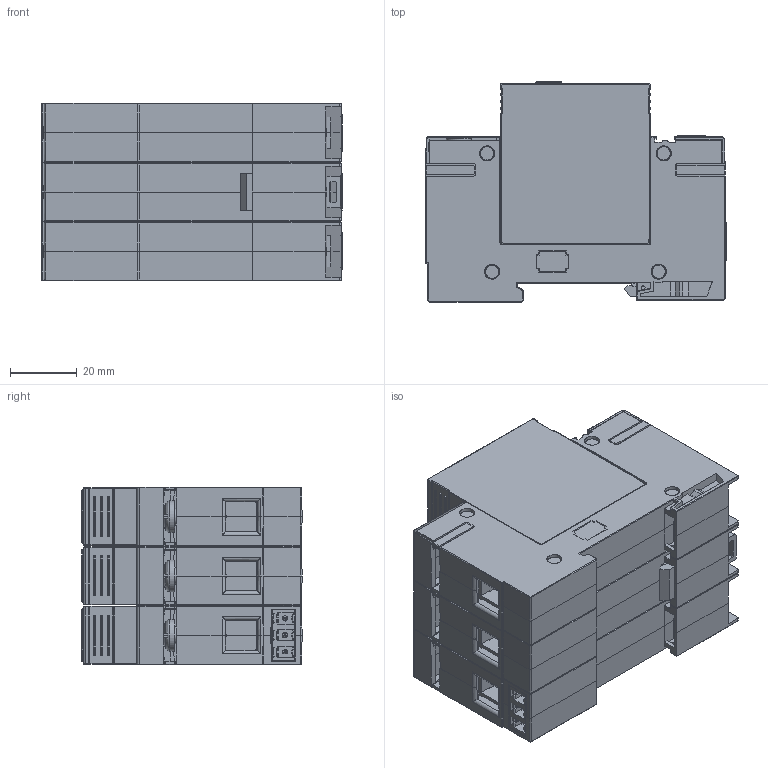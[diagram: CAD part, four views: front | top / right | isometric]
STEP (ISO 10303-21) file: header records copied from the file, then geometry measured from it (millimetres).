
FILE_DESCRIPTION(('STEP AP214'),'2;1');
FILE_NAME('7P_26_9_420_1020.stp','2011-09-26T11:35:29',(''),(''),'2007.1.106','THINKDESIGN','');
FILE_SCHEMA(('AUTOMOTIVE_DESIGN'));
Products named in the file (1): None
Bounding box: 90.29 x 66.08 x 53.4 mm (x, y, z)
Surface area: 87560.3 mm2 (no closed solid volume)
Topology: 0 solids, 0 shells, 2700 faces, 16476 edges, 16454 vertices
Faces by surface type: plane 1720, cylinder 540, bspline 440
Full cylindrical faces by diameter (mm): 1.55 x4, 1.611 x1, 3.8 x4, 4 x4, 4.2 x1, 5 x6, 6 x6, 7.5 x6, 9.5 x6
Entity records: 163307 total; most frequent: CARTESIAN_POINT 60647, COMPOSITE_CURVE_SEGMENT 16454, DIRECTION 15879, TRIMMED_CURVE 10587, VECTOR 9815, LINE 9815, AXIS2_PLACEMENT_3D 3032, OUTER_BOUNDARY_CURVE 2700
